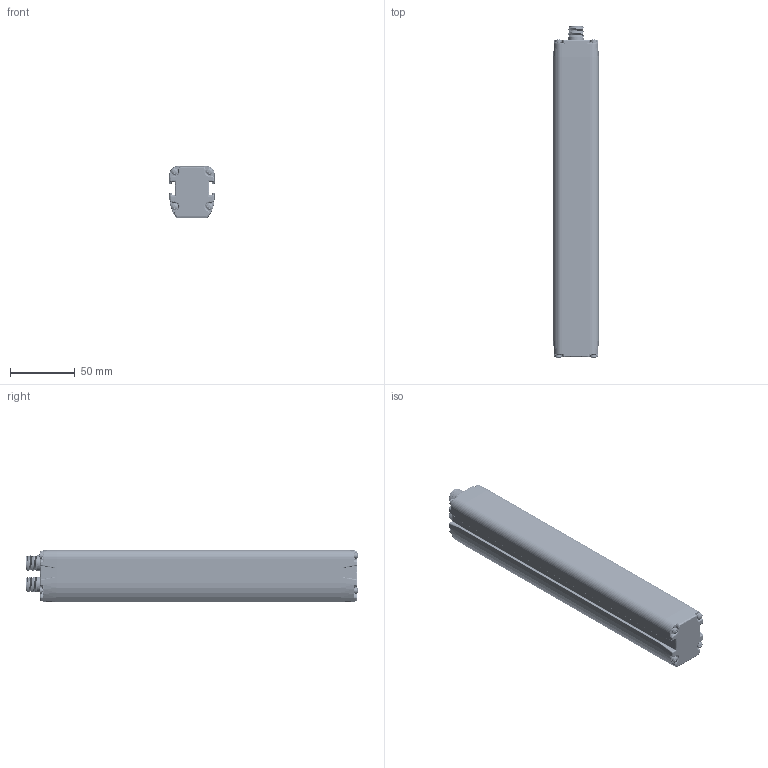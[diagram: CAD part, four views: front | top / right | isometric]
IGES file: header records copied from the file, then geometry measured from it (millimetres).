
Start section:  PTC IGES file: 2009991
Global section: file name: 2009991; native system: Pro/ENGINEER by Parametric Technology Corporation; preprocessor: 2011040; author: rink; organization: Unknown; date: 20120130.132547; units: millimetre
Bounding box: 35 x 256.58 x 40 mm (x, y, z)
Surface area: 65383.3 mm2 (no closed solid volume)
Topology: 0 solids, 0 shells, 2506 faces, 13206 edges, 13032 vertices
Faces by surface type: revolution 1158, bspline 822, extrusion 526
